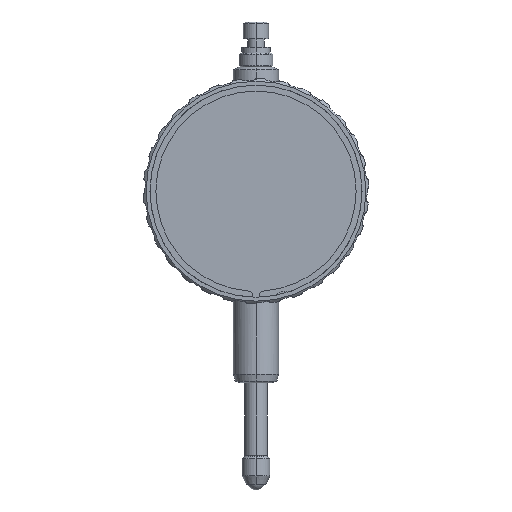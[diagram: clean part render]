
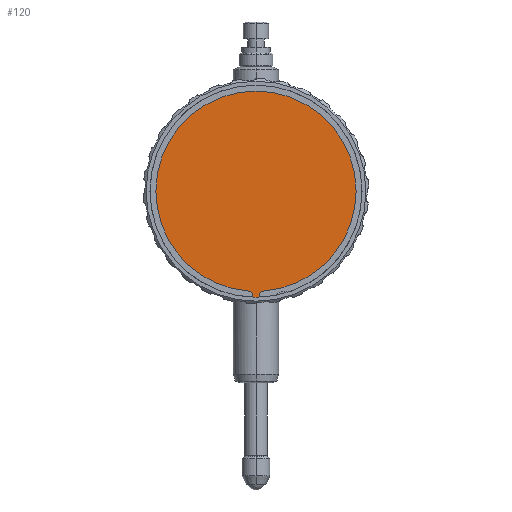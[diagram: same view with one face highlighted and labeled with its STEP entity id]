
A CAD part, front view. The second image highlights one B-rep face of the part: STEP entity #120.
In plain terms, the highlighted planar face has unit normal (0, -1, 0).
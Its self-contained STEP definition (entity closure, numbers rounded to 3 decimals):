
#120=ADVANCED_FACE('',(#444),#445,.F.);
#444=FACE_OUTER_BOUND('',#978,.T.);
#445=PLANE('',#979);
#978=EDGE_LOOP('',(#2051,#2052,#2053,#2054,#2055,#2056,#2057,#2058,#2059));
#979=AXIS2_PLACEMENT_3D('',#2060,#2061,#2062);
#2051=ORIENTED_EDGE('',*,*,#3839,.T.);
#2052=ORIENTED_EDGE('',*,*,#3876,.T.);
#2053=ORIENTED_EDGE('',*,*,#3842,.T.);
#2054=ORIENTED_EDGE('',*,*,#3872,.T.);
#2055=ORIENTED_EDGE('',*,*,#3879,.T.);
#2056=ORIENTED_EDGE('',*,*,#3830,.T.);
#2057=ORIENTED_EDGE('',*,*,#3836,.T.);
#2058=ORIENTED_EDGE('',*,*,#3878,.T.);
#2059=ORIENTED_EDGE('',*,*,#3834,.T.);
#2060=CARTESIAN_POINT('',(0.,-12.15,0.));
#2061=DIRECTION('',(0.,1.0,0.0));
#2062=DIRECTION('',(-1.0,0.,0.0));
#3830=EDGE_CURVE('',#4918,#4922,#4924,.T.);
#3834=EDGE_CURVE('',#4926,#4930,#4932,.T.);
#3836=EDGE_CURVE('',#4922,#4933,#4936,.T.);
#3839=EDGE_CURVE('',#4930,#4938,#4941,.T.);
#3842=EDGE_CURVE('',#4946,#4943,#4947,.T.);
#3872=EDGE_CURVE('',#4943,#4996,#4998,.T.);
#3876=EDGE_CURVE('',#4938,#4946,#5002,.T.);
#3878=EDGE_CURVE('',#4933,#4926,#5004,.T.);
#3879=EDGE_CURVE('',#4996,#4918,#5005,.T.);
#4918=VERTEX_POINT('',#8702);
#4922=VERTEX_POINT('',#8707);
#4924=CIRCLE('',#8710,0.75);
#4926=VERTEX_POINT('',#8712);
#4930=VERTEX_POINT('',#8717);
#4932=CIRCLE('',#8720,17.75);
#4933=VERTEX_POINT('',#8721);
#4936=CIRCLE('',#8725,17.75);
#4938=VERTEX_POINT('',#8727);
#4941=CIRCLE('',#8731,0.75);
#4943=VERTEX_POINT('',#8733);
#4946=VERTEX_POINT('',#8737);
#4947=CIRCLE('',#8738,18.8);
#4996=VERTEX_POINT('',#8801);
#4998=CIRCLE('',#8804,18.8);
#5002=CIRCLE('',#8808,0.75);
#5004=CIRCLE('',#8810,17.75);
#5005=CIRCLE('',#8811,0.75);
#8702=CARTESIAN_POINT('',(0.6,-12.15,-18.451));
#8707=CARTESIAN_POINT('',(1.295,-12.15,-17.703));
#8710=AXIS2_PLACEMENT_3D('',#11936,#11937,#11938);
#8712=CARTESIAN_POINT('',(-17.75,-12.15,0.));
#8717=CARTESIAN_POINT('',(-1.295,-12.15,-17.703));
#8720=AXIS2_PLACEMENT_3D('',#11944,#11945,#11946);
#8721=CARTESIAN_POINT('',(17.75,-12.15,0.));
#8725=AXIS2_PLACEMENT_3D('',#11948,#11949,#11950);
#8727=CARTESIAN_POINT('',(-0.6,-12.15,-18.451));
#8731=AXIS2_PLACEMENT_3D('',#11955,#11956,#11957);
#8733=CARTESIAN_POINT('',(0.,-12.15,-18.8));
#8737=CARTESIAN_POINT('',(-0.68,-12.15,-18.788));
#8738=AXIS2_PLACEMENT_3D('',#11962,#11963,#11964);
#8801=CARTESIAN_POINT('',(0.68,-12.15,-18.788));
#8804=AXIS2_PLACEMENT_3D('',#12022,#12023,#12024);
#8808=AXIS2_PLACEMENT_3D('',#12034,#12035,#12036);
#8810=AXIS2_PLACEMENT_3D('',#12040,#12041,#12042);
#8811=AXIS2_PLACEMENT_3D('',#12043,#12044,#12045);
#11936=CARTESIAN_POINT('',(1.35,-12.15,-18.451));
#11937=DIRECTION('',(0.,1.0,0.0));
#11938=DIRECTION('',(1.0,0.,0.0));
#11944=CARTESIAN_POINT('',(0.,-12.15,0.));
#11945=DIRECTION('',(0.,-1.0,0.0));
#11946=DIRECTION('',(1.0,0.,0.0));
#11948=CARTESIAN_POINT('',(0.,-12.15,0.));
#11949=DIRECTION('',(0.,-1.0,0.0));
#11950=DIRECTION('',(1.0,0.,0.0));
#11955=CARTESIAN_POINT('',(-1.35,-12.15,-18.451));
#11956=DIRECTION('',(0.,1.0,0.0));
#11957=DIRECTION('',(1.0,0.,0.0));
#11962=CARTESIAN_POINT('',(0.,-12.15,0.));
#11963=DIRECTION('',(0.,-1.0,0.0));
#11964=DIRECTION('',(-1.0,0.,0.0));
#12022=CARTESIAN_POINT('',(0.,-12.15,0.));
#12023=DIRECTION('',(0.,-1.0,0.0));
#12024=DIRECTION('',(-1.0,0.,0.0));
#12034=CARTESIAN_POINT('',(-1.35,-12.15,-18.451));
#12035=DIRECTION('',(0.,1.0,0.0));
#12036=DIRECTION('',(1.0,0.,0.0));
#12040=CARTESIAN_POINT('',(0.,-12.15,0.));
#12041=DIRECTION('',(0.,-1.0,0.0));
#12042=DIRECTION('',(1.0,0.,0.0));
#12043=CARTESIAN_POINT('',(1.35,-12.15,-18.451));
#12044=DIRECTION('',(0.,1.0,0.0));
#12045=DIRECTION('',(1.0,0.,0.0));
